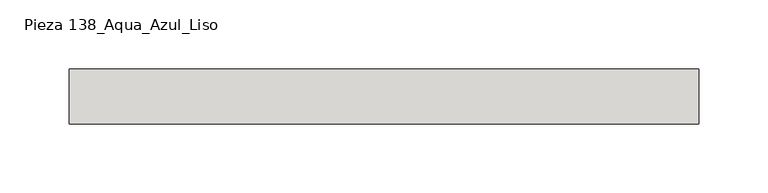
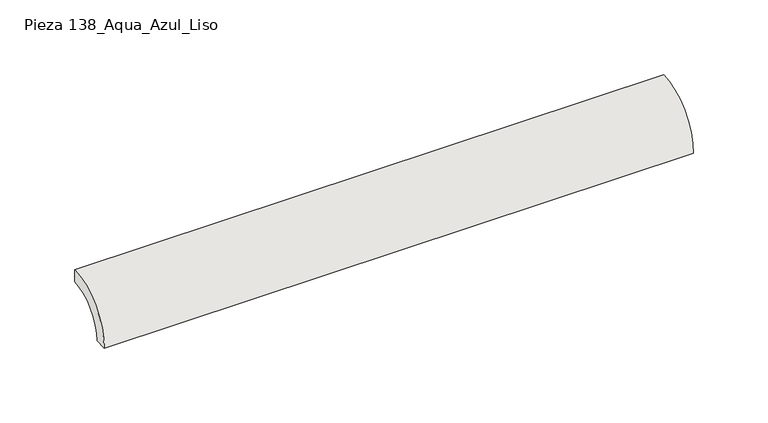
"""IFC4 building model written with IfcOpenShell, lengths in millimetres: slab geometry, ROSA GRES_138 : Pieza 138_Aqua_Azul_Liso."""

from ifc_helpers import new_model, si_unit, point, frame, frame_2d, origin, origin_2d, place, context, project, spatial, polyline, circle_curve, trimmed, segment, composite_curve, outline, extrude, source, transform, mapped, element, save


def pieza_138_aqua_azul_liso_2120dd76(model_context):
    return source(origin(), model_context, "Body", "SweptSolid", [
        extrude(outline(composite_curve([segment(polyline([(0.0, 40.0), (0.0, 30.0265886)]), True, "CONTINUOUS"), segment(trimmed(circle_curve(frame_2d((-0.0044453, 0.0044453)), 30.0221435), [point((0.0, 30.0265886))], [point((-30.0265886, 0.0))], True, "CARTESIAN"), True, "CONTINUOUS"), segment(polyline([(-30.0265886, 0.0), (-40.0, 0.0)]), True, "CONTINUOUS"), segment(trimmed(circle_curve(origin_2d(), 40.0), [point((-40.0, 0.0))], [point((0.0, 40.0))], False, "CARTESIAN"), True, "CONTINUOUS")], self_intersect=False)), frame((0.0, 0.0, 0.0), z_axis=(1.0, 0.0, 0.0), x_axis=(0.0, 1.0, 0.0)), (0.0, 0.0, 1.0), 455.7931553),
    ])


if __name__ == "__main__":
    model = new_model("IFC4")
    model_context = context("Model", 3, world=origin())
    ifc_project = project(units=[si_unit("LENGTHUNIT", "METRE", prefix="MILLI")], contexts=[model_context])
    site = spatial("IfcSite", under=ifc_project)
    building = spatial("IfcBuilding", under=site)
    placement = place(None, origin())
    pieza_138_aqua_azul_liso_shape = pieza_138_aqua_azul_liso_2120dd76(model_context)
    element("IfcSlab", 1, ObjectType="ROSA GRES_138 : Pieza 138_Aqua_Azul_Liso", at=placement, inside=building, context=model_context, shape_type="MappedRepresentation", body=[
        mapped(pieza_138_aqua_azul_liso_shape, transform((0.0, 0.0, 0.0), x_axis=(1.0, 0.0, 0.0), y_axis=(0.0, 1.0, 0.0), z_axis=(0.0, 0.0, 1.0))),
    ])
    save(model, "model.ifc")
